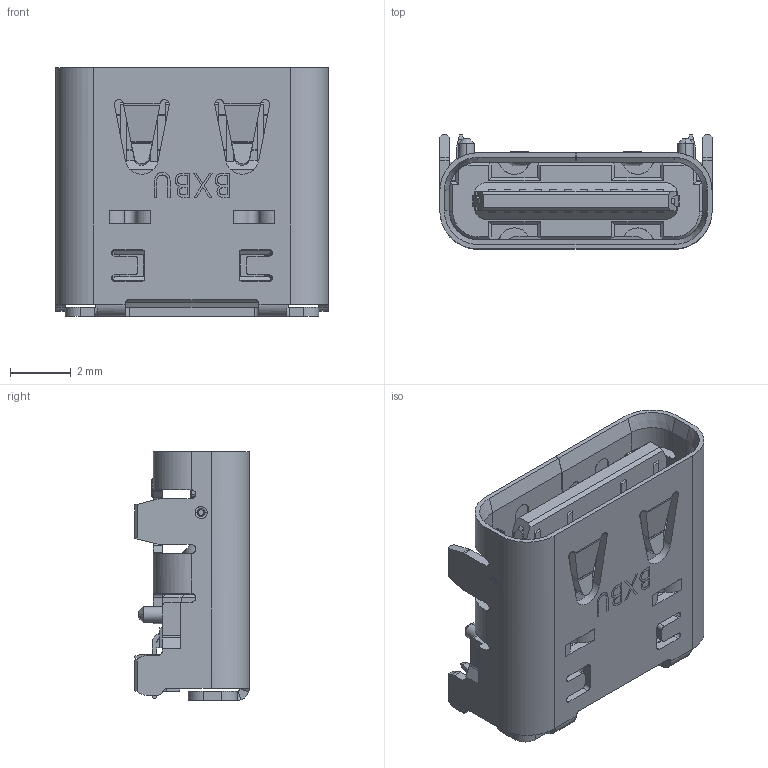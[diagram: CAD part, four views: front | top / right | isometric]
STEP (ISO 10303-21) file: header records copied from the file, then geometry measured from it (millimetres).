
FILE_DESCRIPTION (( 'STEP AP214' ), '1' );
FILE_NAME ('Shell_single_CH1.6-0.STEP', '2026-06-04T02:29:25', ( '' ), ( '' ), 'SwSTEP 2.0', 'SolidWorks 2024', '' );
FILE_SCHEMA (( 'AUTOMOTIVE_DESIGN' ));
Length unit declared in the file: millimetre
Products named in the file (1): Shell_single_CH1.6-0
Bounding box: 8.94 x 3.76 x 8.17 mm (x, y, z)
Surface area: 613.6 mm2 (no closed solid volume)
Topology: 0 solids, 54 shells, 1813 faces, 4967 edges, 3241 vertices
Faces by surface type: plane 1461, cylinder 271, torus 40, cone 29, bspline 12
Entity records: 63278 total; most frequent: CARTESIAN_POINT 26740, ORIENTED_EDGE 9916, EDGE_CURVE 4967, B_SPLINE_CURVE_WITH_KNOTS 4931, DIRECTION 3640, VERTEX_POINT 3241, EDGE_LOOP 1862, ADVANCED_FACE 1813
